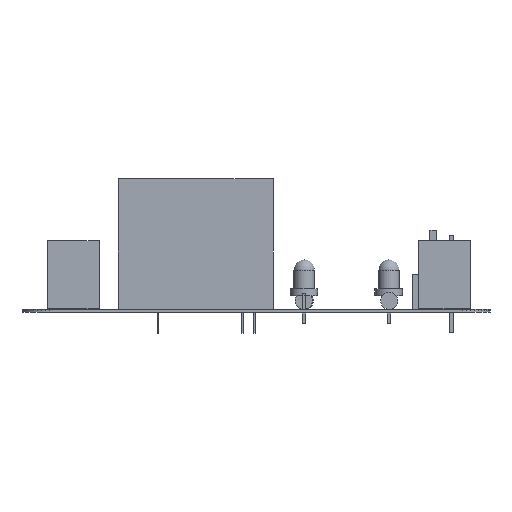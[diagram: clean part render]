
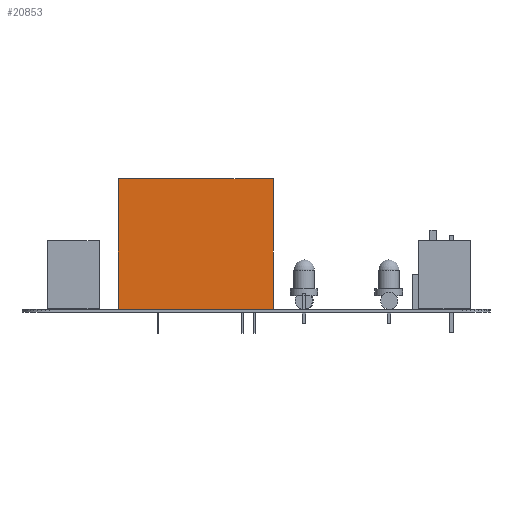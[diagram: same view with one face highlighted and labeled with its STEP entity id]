
A CAD part, left-side view. The second image highlights one B-rep face of the part: STEP entity #20853.
In plain terms, the highlighted planar face has unit normal (-1, 0, 0).
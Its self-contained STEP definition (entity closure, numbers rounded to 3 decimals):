
#20853 = ADVANCED_FACE('',(#20854),#20868,.F.);
#20854 = FACE_BOUND('',#20855,.F.);
#20855 = EDGE_LOOP('',(#20856,#20891,#20919,#20947));
#20856 = ORIENTED_EDGE('',*,*,#20857,.T.);
#20857 = EDGE_CURVE('',#20858,#20860,#20862,.T.);
#20858 = VERTEX_POINT('',#20859);
#20859 = CARTESIAN_POINT('',(-8.25,11.25,0.));
#20860 = VERTEX_POINT('',#20861);
#20861 = CARTESIAN_POINT('',(-8.25,11.25,19.));
#20862 = SURFACE_CURVE('',#20863,(#20867,#20879),.PCURVE_S1.);
#20863 = LINE('',#20864,#20865);
#20864 = CARTESIAN_POINT('',(-8.25,11.25,0.));
#20865 = VECTOR('',#20866,1.);
#20866 = DIRECTION('',(0.,0.,1.));
#20867 = PCURVE('',#20868,#20873);
#20868 = PLANE('',#20869);
#20869 = AXIS2_PLACEMENT_3D('',#20870,#20871,#20872);
#20870 = CARTESIAN_POINT('',(-8.25,11.25,0.));
#20871 = DIRECTION('',(1.,0.,0.));
#20872 = DIRECTION('',(0.,-1.,0.));
#20873 = DEFINITIONAL_REPRESENTATION('',(#20874),#20878);
#20874 = LINE('',#20875,#20876);
#20875 = CARTESIAN_POINT('',(0.,0.));
#20876 = VECTOR('',#20877,1.);
#20877 = DIRECTION('',(0.,-1.));
#20878 = ( GEOMETRIC_REPRESENTATION_CONTEXT(2) 
PARAMETRIC_REPRESENTATION_CONTEXT() REPRESENTATION_CONTEXT('2D SPACE',''
  ) );
#20879 = PCURVE('',#20880,#20885);
#20880 = PLANE('',#20881);
#20881 = AXIS2_PLACEMENT_3D('',#20882,#20883,#20884);
#20882 = CARTESIAN_POINT('',(8.25,11.25,0.));
#20883 = DIRECTION('',(0.,-1.,0.));
#20884 = DIRECTION('',(-1.,0.,0.));
#20885 = DEFINITIONAL_REPRESENTATION('',(#20886),#20890);
#20886 = LINE('',#20887,#20888);
#20887 = CARTESIAN_POINT('',(16.5,0.));
#20888 = VECTOR('',#20889,1.);
#20889 = DIRECTION('',(0.,-1.));
#20890 = ( GEOMETRIC_REPRESENTATION_CONTEXT(2) 
PARAMETRIC_REPRESENTATION_CONTEXT() REPRESENTATION_CONTEXT('2D SPACE',''
  ) );
#20891 = ORIENTED_EDGE('',*,*,#20892,.T.);
#20892 = EDGE_CURVE('',#20860,#20893,#20895,.T.);
#20893 = VERTEX_POINT('',#20894);
#20894 = CARTESIAN_POINT('',(-8.25,-11.25,19.));
#20895 = SURFACE_CURVE('',#20896,(#20900,#20907),.PCURVE_S1.);
#20896 = LINE('',#20897,#20898);
#20897 = CARTESIAN_POINT('',(-8.25,11.25,19.));
#20898 = VECTOR('',#20899,1.);
#20899 = DIRECTION('',(0.,-1.,0.));
#20900 = PCURVE('',#20868,#20901);
#20901 = DEFINITIONAL_REPRESENTATION('',(#20902),#20906);
#20902 = LINE('',#20903,#20904);
#20903 = CARTESIAN_POINT('',(0.,-19.));
#20904 = VECTOR('',#20905,1.);
#20905 = DIRECTION('',(1.,0.));
#20906 = ( GEOMETRIC_REPRESENTATION_CONTEXT(2) 
PARAMETRIC_REPRESENTATION_CONTEXT() REPRESENTATION_CONTEXT('2D SPACE',''
  ) );
#20907 = PCURVE('',#20908,#20913);
#20908 = PLANE('',#20909);
#20909 = AXIS2_PLACEMENT_3D('',#20910,#20911,#20912);
#20910 = CARTESIAN_POINT('',(-8.25,11.25,19.));
#20911 = DIRECTION('',(0.,0.,-1.));
#20912 = DIRECTION('',(-1.,0.,0.));
#20913 = DEFINITIONAL_REPRESENTATION('',(#20914),#20918);
#20914 = LINE('',#20915,#20916);
#20915 = CARTESIAN_POINT('',(0.,0.));
#20916 = VECTOR('',#20917,1.);
#20917 = DIRECTION('',(0.,-1.));
#20918 = ( GEOMETRIC_REPRESENTATION_CONTEXT(2) 
PARAMETRIC_REPRESENTATION_CONTEXT() REPRESENTATION_CONTEXT('2D SPACE',''
  ) );
#20919 = ORIENTED_EDGE('',*,*,#20920,.F.);
#20920 = EDGE_CURVE('',#20921,#20893,#20923,.T.);
#20921 = VERTEX_POINT('',#20922);
#20922 = CARTESIAN_POINT('',(-8.25,-11.25,0.));
#20923 = SURFACE_CURVE('',#20924,(#20928,#20935),.PCURVE_S1.);
#20924 = LINE('',#20925,#20926);
#20925 = CARTESIAN_POINT('',(-8.25,-11.25,0.));
#20926 = VECTOR('',#20927,1.);
#20927 = DIRECTION('',(0.,0.,1.));
#20928 = PCURVE('',#20868,#20929);
#20929 = DEFINITIONAL_REPRESENTATION('',(#20930),#20934);
#20930 = LINE('',#20931,#20932);
#20931 = CARTESIAN_POINT('',(22.5,0.));
#20932 = VECTOR('',#20933,1.);
#20933 = DIRECTION('',(0.,-1.));
#20934 = ( GEOMETRIC_REPRESENTATION_CONTEXT(2) 
PARAMETRIC_REPRESENTATION_CONTEXT() REPRESENTATION_CONTEXT('2D SPACE',''
  ) );
#20935 = PCURVE('',#20936,#20941);
#20936 = PLANE('',#20937);
#20937 = AXIS2_PLACEMENT_3D('',#20938,#20939,#20940);
#20938 = CARTESIAN_POINT('',(-8.25,-11.25,0.));
#20939 = DIRECTION('',(0.,1.,0.));
#20940 = DIRECTION('',(1.,0.,0.));
#20941 = DEFINITIONAL_REPRESENTATION('',(#20942),#20946);
#20942 = LINE('',#20943,#20944);
#20943 = CARTESIAN_POINT('',(0.,0.));
#20944 = VECTOR('',#20945,1.);
#20945 = DIRECTION('',(0.,-1.));
#20946 = ( GEOMETRIC_REPRESENTATION_CONTEXT(2) 
PARAMETRIC_REPRESENTATION_CONTEXT() REPRESENTATION_CONTEXT('2D SPACE',''
  ) );
#20947 = ORIENTED_EDGE('',*,*,#20948,.F.);
#20948 = EDGE_CURVE('',#20858,#20921,#20949,.T.);
#20949 = SURFACE_CURVE('',#20950,(#20954,#20961),.PCURVE_S1.);
#20950 = LINE('',#20951,#20952);
#20951 = CARTESIAN_POINT('',(-8.25,11.25,0.));
#20952 = VECTOR('',#20953,1.);
#20953 = DIRECTION('',(0.,-1.,0.));
#20954 = PCURVE('',#20868,#20955);
#20955 = DEFINITIONAL_REPRESENTATION('',(#20956),#20960);
#20956 = LINE('',#20957,#20958);
#20957 = CARTESIAN_POINT('',(0.,0.));
#20958 = VECTOR('',#20959,1.);
#20959 = DIRECTION('',(1.,0.));
#20960 = ( GEOMETRIC_REPRESENTATION_CONTEXT(2) 
PARAMETRIC_REPRESENTATION_CONTEXT() REPRESENTATION_CONTEXT('2D SPACE',''
  ) );
#20961 = PCURVE('',#20962,#20967);
#20962 = PLANE('',#20963);
#20963 = AXIS2_PLACEMENT_3D('',#20964,#20965,#20966);
#20964 = CARTESIAN_POINT('',(-8.25,11.25,0.));
#20965 = DIRECTION('',(0.,0.,-1.));
#20966 = DIRECTION('',(-1.,0.,0.));
#20967 = DEFINITIONAL_REPRESENTATION('',(#20968),#20972);
#20968 = LINE('',#20969,#20970);
#20969 = CARTESIAN_POINT('',(0.,0.));
#20970 = VECTOR('',#20971,1.);
#20971 = DIRECTION('',(0.,-1.));
#20972 = ( GEOMETRIC_REPRESENTATION_CONTEXT(2) 
PARAMETRIC_REPRESENTATION_CONTEXT() REPRESENTATION_CONTEXT('2D SPACE',''
  ) );
